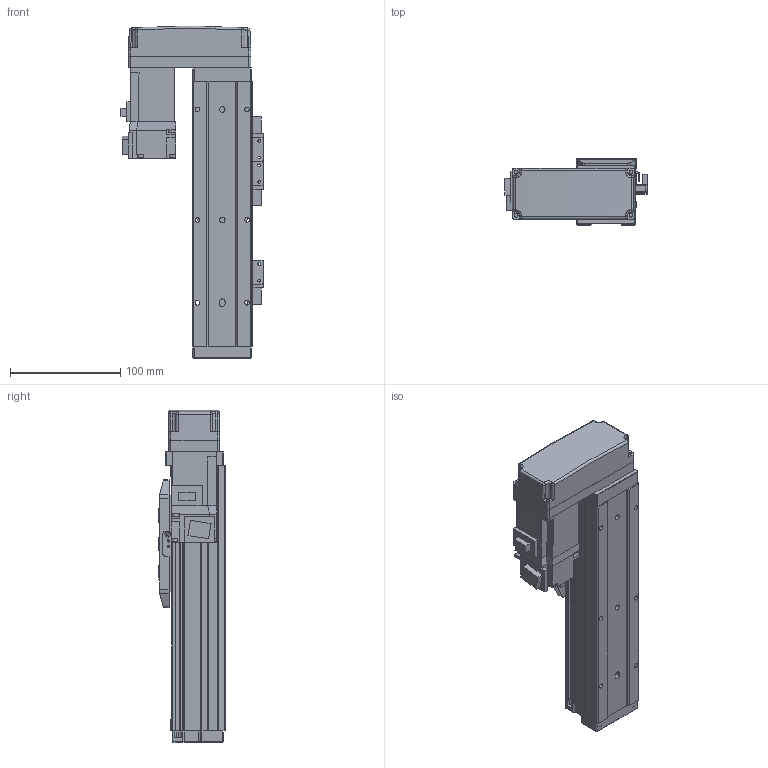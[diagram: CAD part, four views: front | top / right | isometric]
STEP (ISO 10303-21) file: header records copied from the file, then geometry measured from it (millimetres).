
FILE_DESCRIPTION (( 'STEP AP214' ), '1' );
FILE_NAME ('N_GRH5-100-BR-M10.step', '2025-03-14T10:57:43', ( '' ), ( '' ), 'SwSTEP 2.0', 'SolidWorks 2016', '' );
FILE_SCHEMA (( 'AUTOMOTIVE_DESIGN' ));
Length unit declared in the file: millimetre
Products named in the file (5): N_GRH5-100-BR-M10; HF-KP13_100W_Motor^N_GRH5-100-BR-M10; N_GRH5-GY-004^N_GRH5-100-BR-M10; N_GRH5-GY-011^N_GRH5-100-BR-M10; N_GRH5-BL-008^N_GRH5-100-BR-M10
Assembly tree (4 placements, depth 2):
  N_GRH5-100-BR-M10
    N_GRH5-GY-011^N_GRH5-100-BR-M10
    N_GRH5-GY-004^N_GRH5-100-BR-M10
    HF-KP13_100W_Motor^N_GRH5-100-BR-M10
    N_GRH5-BL-008^N_GRH5-100-BR-M10
Bounding box: 128.85 x 60 x 300.5 mm (x, y, z)
Volume: 843862.4 mm3; surface area: 191845.8 mm2
Topology: 4 solids, 5 shells, 914 faces, 2336 edges, 1477 vertices
Faces by surface type: plane 543, cylinder 296, cone 50, bspline 15, sphere 10
Entity records: 34883 total; most frequent: CARTESIAN_POINT 5493, DIRECTION 4685, ORIENTED_EDGE 4608, EDGE_CURVE 2304, VECTOR 1619, LINE 1619, AXIS2_PLACEMENT_3D 1533, VERTEX_POINT 1475
